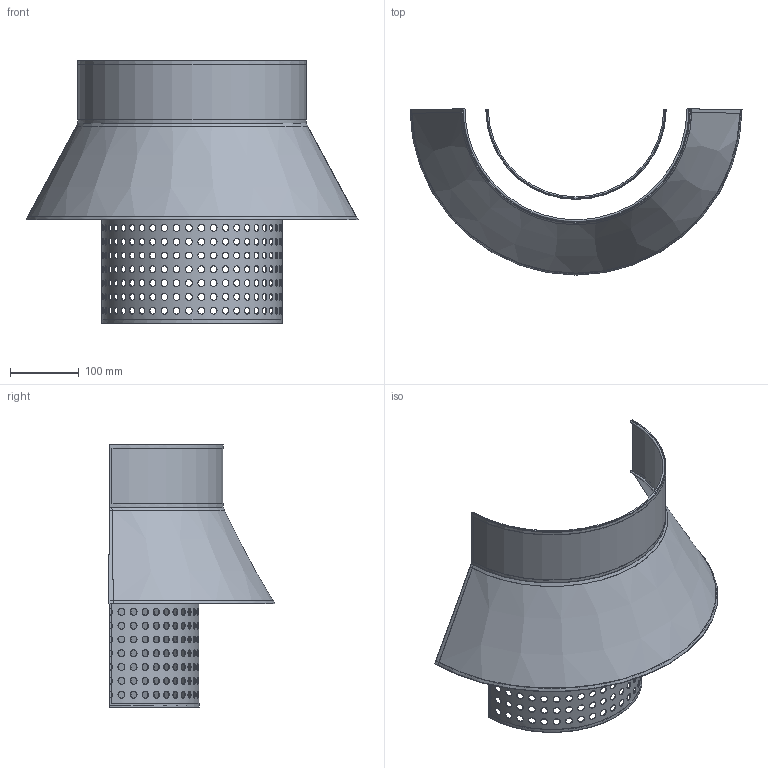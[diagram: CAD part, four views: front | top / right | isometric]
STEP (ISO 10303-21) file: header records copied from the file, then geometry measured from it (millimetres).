
FILE_DESCRIPTION( ( 'STEP AP203' ), '1' );
FILE_NAME( '//srvbf/BF Disegni/Z (LIBRERIA)/STRUTTURE LUMETTI PIANTANE/SATURN-A2 Applique 3D.stp', '2020-10-15T13:09:26', ( ' ' ), ( ' ' ), 'XStep 1.0', ' ', ' ' );
FILE_SCHEMA( ( 'CONFIG_CONTROL_DESIGN) ( )' ) );
Length unit declared in the file: metre
Products named in the file (7): 1; 2; 3; 4; 5; 6; 7
Bounding box: 481.21 x 240.6 x 380 mm (x, y, z)
Volume: 228031.3 mm3; surface area: 473661.4 mm2
Topology: 7 solids, 7 shells, 251 faces, 713 edges, 474 vertices
Faces by surface type: cylinder 194, plane 41, cone 11, torus 5
Full cylindrical faces by diameter (mm): 10 x176
Entity records: 33798 total; most frequent: CARTESIAN_POINT 27576, ORIENTED_EDGE 1068, EDGE_LOOP 786, DIRECTION 736, EDGE_CURVE 534, VERTEX_POINT 496, FACE_OUTER_BOUND 430, FACE_BOUND 378
